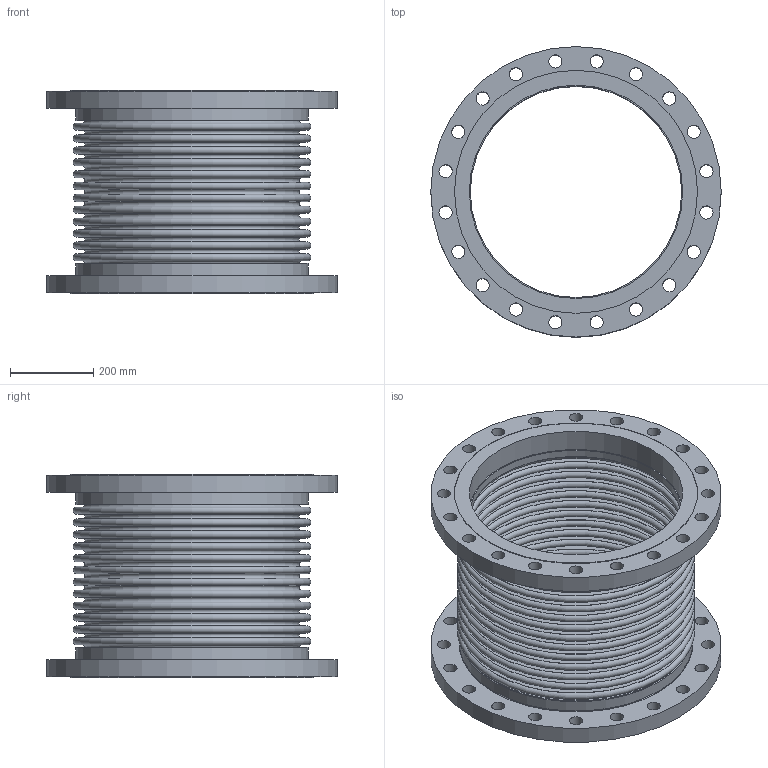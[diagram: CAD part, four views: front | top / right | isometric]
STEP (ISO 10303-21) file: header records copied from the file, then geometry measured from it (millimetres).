
FILE_DESCRIPTION(/* description */ ('EXPANSION JOINT,SINGLE, FLANGED ENDS,20 INCH','CAx-IF Rec.Pracs.---Representation and Presentation of Product Manufacturing Information (PMI)---4.0---2014-10-13'),/* implementation_level */ '2;1');
FILE_NAME(/* name */ 'US-20-12-300L-FLANGED ENDS.stp',/* time_stamp */ '2026-07-31T17:40:14-05:00',/* author */ ('Guadalupe'),/* organization */ (''),/* preprocessor_version */ 'ST-DEVELOPER v20.1',/* originating_system */ 'Autodesk Inventor 2026',/* authorisation */ '');
FILE_SCHEMA (('AP242_MANAGED_MODEL_BASED_3D_ENGINEERING_MIM_LF { 1 0 10303 442 2 1 4 }'));
Length unit declared in the file: inch
Products named in the file (3): 20-300L; 20-300L-02; 20-300L-01
Assembly tree (3 placements, depth 2):
  20-300L
    20-300L-02  x2
    20-300L-01
Bounding box: 698.5 x 698.5 x 488.7 mm (x, y, z)
Volume: 20489111.4 mm3; surface area: 4480920.8 mm2
Topology: 5 solids, 5 shells, 168 faces, 318 edges, 212 vertices
Faces by surface type: plane 62, torus 54, cylinder 52
Full cylindrical faces by diameter (mm): 31.75 x40, 508 x2, 513.08 x2, 514.096 x2, 558.8 x2, 584.2 x2, 698.5 x2
Entity records: 3762 total; most frequent: DIRECTION 766, CARTESIAN_POINT 561, ORIENTED_EDGE 480, AXIS2_PLACEMENT_3D 369, EDGE_CURVE 240, EDGE_LOOP 236, CIRCLE 212, VERTEX_POINT 160
